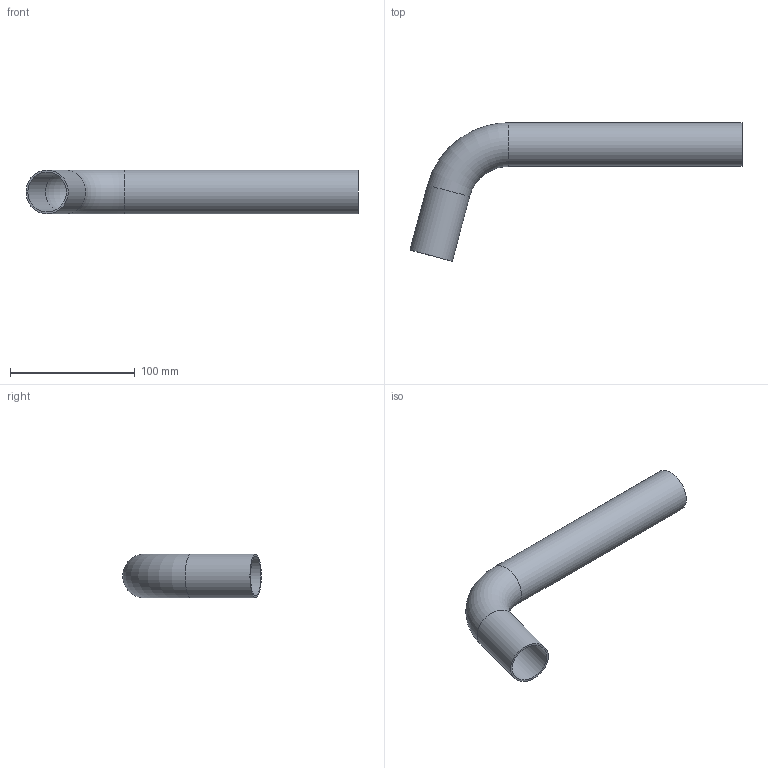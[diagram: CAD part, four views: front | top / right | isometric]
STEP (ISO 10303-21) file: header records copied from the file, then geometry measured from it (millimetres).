
FILE_DESCRIPTION((''),'2;1');
FILE_NAME('G:\Technics\CAD\Bauteile\035\6904535(1).stp','2008-02-28T09:22:03',('herberg'),(''),'Autodesk Inventor 2008','Autodesk Inventor 2008','');
FILE_SCHEMA(('AUTOMOTIVE_DESIGN { 1 0 10303 214 1 1 1 1 }'));
Length unit declared in the file: millimetre
Products named in the file (1): 6904535(1)
Bounding box: 265.72 x 110.89 x 35 mm (x, y, z)
Volume: 48262 mm3; surface area: 64665.1 mm2
Topology: 1 solids, 1 shells, 8 faces, 14 edges, 8 vertices
Faces by surface type: cylinder 4, torus 2, plane 2
Full cylindrical faces by diameter (mm): 32 x2, 35 x2
Entity records: 194 total; most frequent: DIRECTION 34, CARTESIAN_POINT 25, AXIS2_PLACEMENT_3D 17, ORIENTED_EDGE 16, EDGE_LOOP 16, VERTEX_POINT 8, CIRCLE 8, EDGE_CURVE 8
